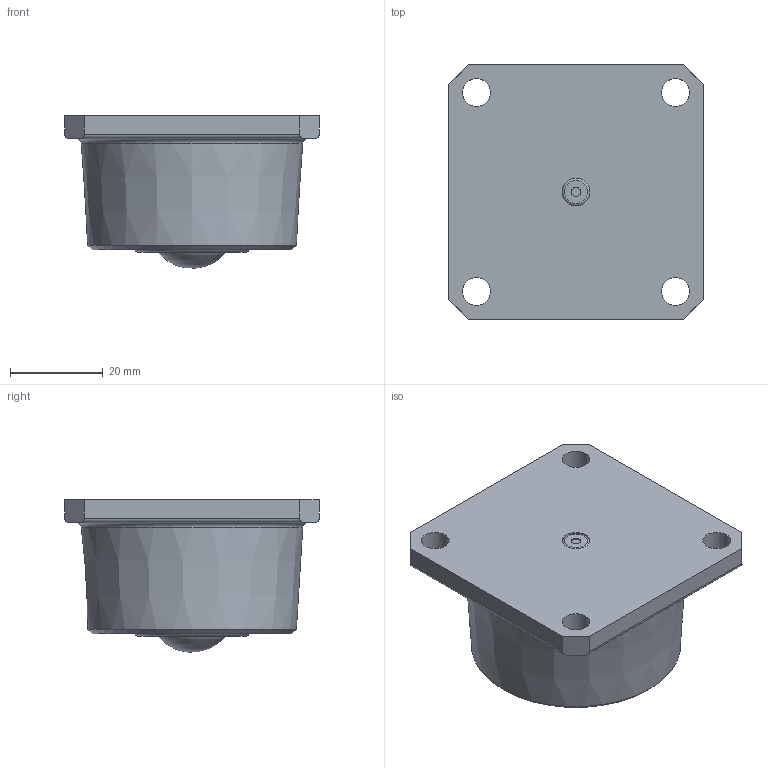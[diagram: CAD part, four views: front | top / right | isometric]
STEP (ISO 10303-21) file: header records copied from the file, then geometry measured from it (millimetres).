
FILE_DESCRIPTION(/* description */ (''),/* implementation_level */ '2;1');
FILE_NAME(/* name */ 'Z:\80-CAD共有ファイル\製品3D\X2\30C730FC30BF\X0\\11-IK\IK-19.stp',/* time_stamp */ '2015-01-07T09:32:46+09:00',/* author */ ('yamaki'),/* organization */ (''),/* preprocessor_version */ 'ST-DEVELOPER v15.6',/* originating_system */ 'Autodesk Inventor 2015',/* authorisation */ '');
FILE_SCHEMA (('AUTOMOTIVE_DESIGN { 1 0 10303 214 3 1 1 }'));
Length unit declared in the file: millimetre
Products named in the file (1): 1119AA
Bounding box: 55 x 55 x 33 mm (x, y, z)
Volume: 53318.4 mm3; surface area: 12730.4 mm2
Topology: 1 solids, 2 shells, 59 faces, 149 edges, 96 vertices
Faces by surface type: plane 28, cylinder 18, torus 7, sphere 4, cone 2
Full cylindrical faces by diameter (mm): 1.6 x2, 2 x1, 6 x5, 16.6 x1, 25 x1, 36 x1
Entity records: 1668 total; most frequent: DIRECTION 294, CARTESIAN_POINT 256, ORIENTED_EDGE 224, AXIS2_PLACEMENT_3D 122, EDGE_CURVE 112, EDGE_LOOP 100, VERTEX_POINT 84, STYLED_ITEM 60
